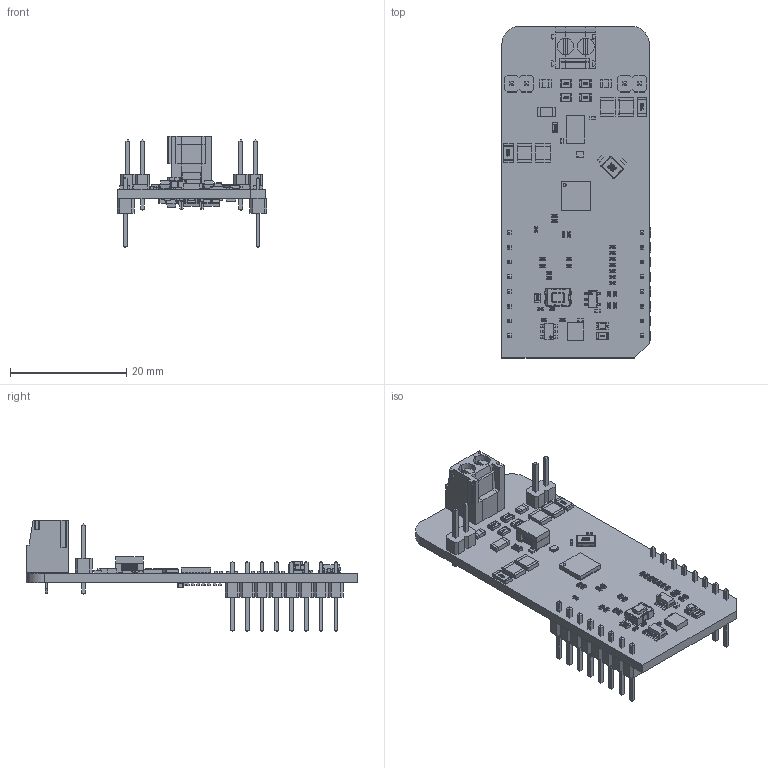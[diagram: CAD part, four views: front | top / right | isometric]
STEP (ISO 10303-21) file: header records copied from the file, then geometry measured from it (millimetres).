
FILE_DESCRIPTION(('Open CASCADE Model'),'2;1');
FILE_NAME('Open CASCADE Shape Model','2026-01-29T09:19:39',('Author'),( 'Open CASCADE'),'Open CASCADE STEP processor 6.8','Open CASCADE 6.8' ,'Unknown');
FILE_SCHEMA(('AUTOMOTIVE_DESIGN { 1 0 10303 214 1 1 1 1 }'));
Length unit declared in the file: millimetre
Products named in the file (142): PCB; Board; R6; User_Library-R_0805; C30; User_Library-SMD_CAPACITOR0402; R28; User_Library-R_1206; R27; C28; User_Library-SMD_CAPACITOR1210; C27; C26; C25; R2; User_Library-R_0402; Y1; CRYSTAL_3.2x2.5; U3; C8051F349-GMR; T1; 74930000; Core; Windings_02; Pins; Glue; Upper_Plate; R7; R5; User_Library-R_0603; Q1; DFN_012823_WRE; J2; User_Library-Pin_Header_Strip_1x2; C9; C8; C7; C6; C5; User_Library-SMD_CAPACITOR1206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
Assembly tree (221 placements, depth 7):
  PCB
    Board
    R6
      User_Library-R_0805
    C30
      User_Library-SMD_CAPACITOR0402
    R28
      User_Library-R_1206
    R27
      User_Library-R_1206
    C28
      User_Library-SMD_CAPACITOR1210
    C27
      User_Library-SMD_CAPACITOR1210
    C26
      User_Library-SMD_CAPACITOR1210
    C25
      User_Library-SMD_CAPACITOR1210
    R2
      User_Library-R_0402
    Y1
      CRYSTAL_3.2x2.5
    U3
      C8051F349-GMR
    T1
      74930000
        Core
        Windings_02
        Pins
        Glue
        Upper_Plate
    R7
      User_Library-R_0805
    R5
      User_Library-R_0603
    Q1
      DFN_012823_WRE
    J2
      User_Library-Pin_Header_Strip_1x2
    C9
      User_Library-SMD_CAPACITOR0402
    C8
      User_Library-SMD_CAPACITOR0402
    C7
      User_Library-SMD_CAPACITOR0402
    C6
      User_Library-SMD_CAPACITOR0402
    C5
      User_Library-SMD_CAPACITOR1206
    C4
      User_Library-SMD_CAPACITOR0402
    C3
      User_Library-SMD_CAPACITOR0402
    U2
      User_Library-SOT23-6-2
    U1
      1116290920
        Extruded
    R4
      User_Library-R_0603
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Bounding box: 25.78 x 57.15 x 19.26 mm (x, y, z)
Volume: 3465 mm3; surface area: 6555 mm2
Topology: 342 solids, 342 shells, 8724 faces, 21277 edges, 13418 vertices
Faces by surface type: plane 5478, bspline 1717, cylinder 1093, sphere 270, torus 160, cone 6
Full cylindrical faces by diameter (mm): 0.042 x322, 0.047 x1
Entity records: 102478 total; most frequent: CARTESIAN_POINT 30423, ORIENTED_EDGE 12668, DIRECTION 11675, EDGE_CURVE 6334, LINE 3989, VECTOR 3989, VERTEX_POINT 3909, AXIS2_PLACEMENT_3D 3843
